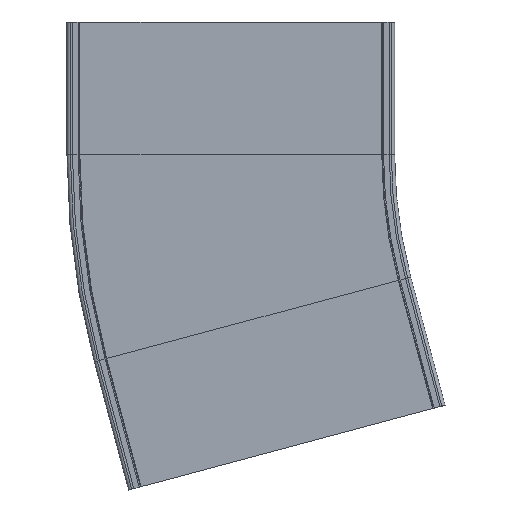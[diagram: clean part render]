
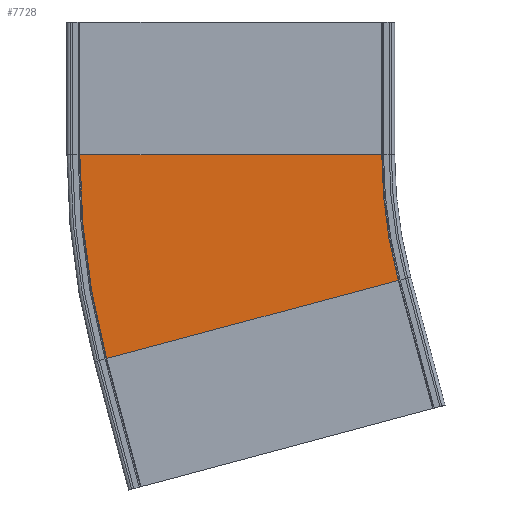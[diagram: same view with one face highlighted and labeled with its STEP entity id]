
A CAD part, front view. The second image highlights one B-rep face of the part: STEP entity #7728.
In plain terms, the highlighted planar face has unit normal (0, -1, 0).
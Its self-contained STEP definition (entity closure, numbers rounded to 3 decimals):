
#500 = LINE ( 'NONE', #4536, #11103 ) ;
#901 = DIRECTION ( 'NONE',  ( 0., 0., 1. ) ) ;
#971 = DIRECTION ( 'NONE',  ( 0., 1., 0. ) ) ;
#1029 = CARTESIAN_POINT ( 'NONE',  ( 960., -76.7, -200. ) ) ;
#1145 = EDGE_CURVE ( 'NONE', #16618, #10913, #10963, .T. ) ;
#1389 = DIRECTION ( 'NONE',  ( 0., 0., 1. ) ) ;
#3549 = ORIENTED_EDGE ( 'NONE', *, *, #9349, .T. ) ;
#4536 = CARTESIAN_POINT ( 'NONE',  ( -187.134, -76.7, -507.373 ) ) ;
#4553 = CARTESIAN_POINT ( 'NONE',  ( -227.6, -76.7, -200. ) ) ;
#4569 = CARTESIAN_POINT ( 'NONE',  ( -187.134, -76.7, -507.373 ) ) ;
#4604 = DIRECTION ( 'NONE',  ( 0.966, 0., 0.259 ) ) ;
#4700 = AXIS2_PLACEMENT_3D ( 'NONE', #4569, #15588, #7365 ) ;
#4947 = ORIENTED_EDGE ( 'NONE', *, *, #1145, .T. ) ;
#5701 = CARTESIAN_POINT ( 'NONE',  ( 252.556, -76.7, -389.559 ) ) ;
#6062 = VERTEX_POINT ( 'NONE', #15442 ) ;
#6998 = EDGE_LOOP ( 'NONE', ( #3549, #16632, #15093, #4947 ) ) ;
#7365 = DIRECTION ( 'NONE',  ( 0., 0., 1. ) ) ;
#7402 = FACE_OUTER_BOUND ( 'NONE', #6998, .T. ) ;
#7728 = ADVANCED_FACE ( 'NONE', ( #7402 ), #12816, .F. ) ;
#8125 = VERTEX_POINT ( 'NONE', #4553 ) ;
#9020 = CARTESIAN_POINT ( 'NONE',  ( 0., -76.7, -200. ) ) ;
#9349 = EDGE_CURVE ( 'NONE', #10913, #8125, #16186, .T. ) ;
#9667 = DIRECTION ( 'NONE',  ( 0., 1., 0. ) ) ;
#9870 = AXIS2_PLACEMENT_3D ( 'NONE', #17965, #9667, #1389 ) ;
#10527 = CARTESIAN_POINT ( 'NONE',  ( 227.6, -76.7, -200. ) ) ;
#10913 = VERTEX_POINT ( 'NONE', #10527 ) ;
#10963 = CIRCLE ( 'NONE', #12731, 732.4 ) ;
#11103 = VECTOR ( 'NONE', #4604, 1000. ) ;
#11776 = DIRECTION ( 'NONE',  ( -1., 0., 0. ) ) ;
#12731 = AXIS2_PLACEMENT_3D ( 'NONE', #1029, #971, #901 ) ;
#12816 = PLANE ( 'NONE',  #4700 ) ;
#12843 = CIRCLE ( 'NONE', #9870, 1187.6 ) ;
#15093 = ORIENTED_EDGE ( 'NONE', *, *, #16760, .T. ) ;
#15334 = EDGE_CURVE ( 'NONE', #6062, #8125, #12843, .T. ) ;
#15442 = CARTESIAN_POINT ( 'NONE',  ( -187.134, -76.7, -507.373 ) ) ;
#15588 = DIRECTION ( 'NONE',  ( 0., 1., 0. ) ) ;
#15750 = VECTOR ( 'NONE', #11776, 1000. ) ;
#16186 = LINE ( 'NONE', #9020, #15750 ) ;
#16618 = VERTEX_POINT ( 'NONE', #5701 ) ;
#16632 = ORIENTED_EDGE ( 'NONE', *, *, #15334, .F. ) ;
#16760 = EDGE_CURVE ( 'NONE', #6062, #16618, #500, .T. ) ;
#17965 = CARTESIAN_POINT ( 'NONE',  ( 960., -76.7, -200. ) ) ;
